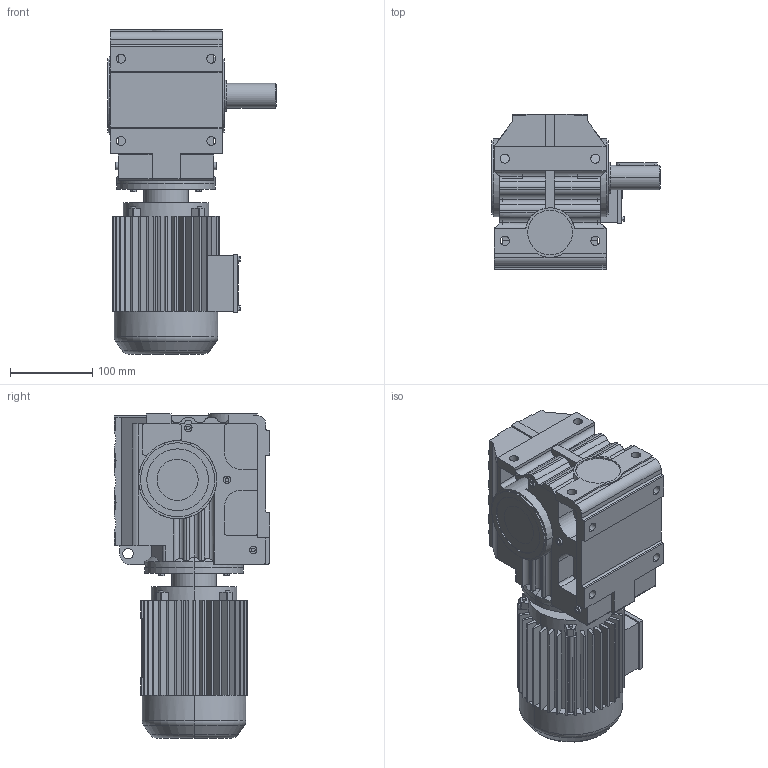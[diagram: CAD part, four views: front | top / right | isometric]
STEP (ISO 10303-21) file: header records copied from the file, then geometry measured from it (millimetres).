
FILE_DESCRIPTION(('Open CASCADE Model'),'2;1');
FILE_NAME('Open CASCADE Shape Model','2018-09-12T14:51:08',('Author'),( 'Open CASCADE'),'Open CASCADE STEP processor 6.3','Open CASCADE 6.3' ,'Unknown');
FILE_SCHEMA(('AUTOMOTIVE_DESIGN_CC2 { 1 2 10303 214 -1 1 5 4 }'));
Length unit declared in the file: millimetre
Products named in the file (4): 277_S57-Y63S-A; S47‵97_57.step; 萇儂_120_Y63S.step; す瑩妗陑粣S_57_S.step
Assembly tree (3 placements, depth 2):
  277_S57-Y63S-A
    S47‵97_57.step
    萇儂_120_Y63S.step
    す瑩妗陑粣S_57_S.step
Bounding box: 205 x 189 x 394 mm (x, y, z)
Volume: 5878644 mm3; surface area: 476261.9 mm2
Topology: 3 solids, 3 shells, 859 faces, 2309 edges, 1494 vertices
Faces by surface type: plane 557, cylinder 285, cone 13, torus 4
Entity records: 64005 total; most frequent: CARTESIAN_POINT 20702, DIRECTION 7344, ORIENTED_EDGE 4614, PCURVE 4614, DEFINITIONAL_REPRESENTATION 4614, LINE 3869, VECTOR 3869, EDGE_CURVE 2307
